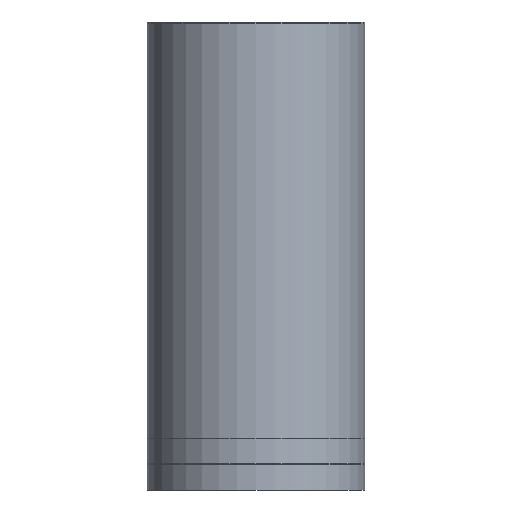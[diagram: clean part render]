
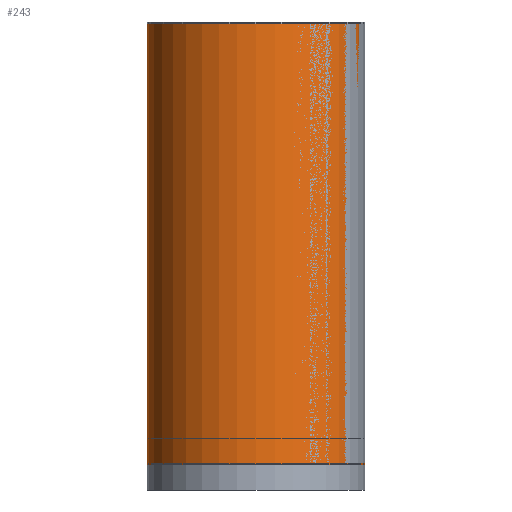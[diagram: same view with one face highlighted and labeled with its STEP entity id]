
A CAD part, left-side view. The second image highlights one B-rep face of the part: STEP entity #243.
In plain terms, the highlighted cylindrical face has radius 109.537 mm (diameter 219.075 mm), a full revolution.
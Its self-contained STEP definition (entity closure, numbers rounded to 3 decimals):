
#243 = ADVANCED_FACE( '', ( #555, #556 ), #557, .T. );
#555 = FACE_OUTER_BOUND( '', #896, .T. );
#556 = FACE_OUTER_BOUND( '', #897, .T. );
#557 = CYLINDRICAL_SURFACE( '', #898, 109.538 );
#896 = EDGE_LOOP( '', ( #1379 ) );
#897 = EDGE_LOOP( '', ( #1380 ) );
#898 = AXIS2_PLACEMENT_3D( '', #1381, #1382, #1383 );
#1379 = ORIENTED_EDGE( '', *, *, #1576, .F. );
#1380 = ORIENTED_EDGE( '', *, *, #1615, .T. );
#1381 = CARTESIAN_POINT( '', ( 0., 0., 12.7 ) );
#1382 = DIRECTION( '', ( 0., 0., 1. ) );
#1383 = DIRECTION( '', ( -1., 0., 0. ) );
#1576 = EDGE_CURVE( '', #1790, #1790, #1791, .T. );
#1615 = EDGE_CURVE( '', #1846, #1846, #1847, .T. );
#1790 = VERTEX_POINT( '', #2028 );
#1791 = CIRCLE( '', #2029, 109.538 );
#1846 = VERTEX_POINT( '', #2084 );
#1847 = CIRCLE( '', #2085, 109.538 );
#2028 = CARTESIAN_POINT( '', ( 109.538, 0., 0. ) );
#2029 = AXIS2_PLACEMENT_3D( '', #2284, #2285, #2286 );
#2084 = CARTESIAN_POINT( '', ( 0., 109.538, 444.5 ) );
#2085 = AXIS2_PLACEMENT_3D( '', #2335, #2336, #2337 );
#2284 = CARTESIAN_POINT( '', ( 0., 0., 0. ) );
#2285 = DIRECTION( '', ( 0., 0., -1. ) );
#2286 = DIRECTION( '', ( 1., 0., 0. ) );
#2335 = CARTESIAN_POINT( '', ( 0., 0., 444.5 ) );
#2336 = DIRECTION( '', ( 0., 0., -1. ) );
#2337 = DIRECTION( '', ( 0., 1., 0. ) );
